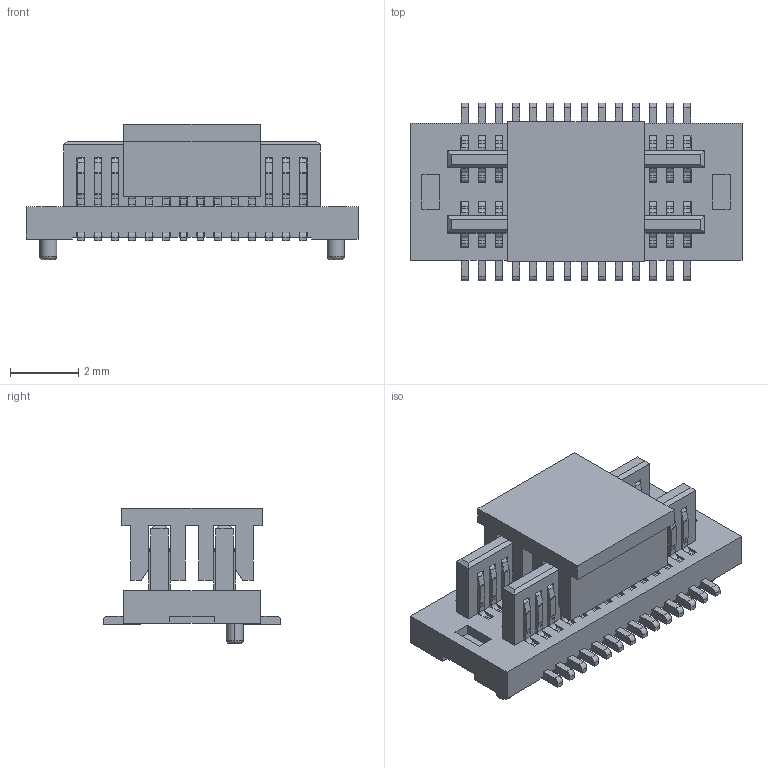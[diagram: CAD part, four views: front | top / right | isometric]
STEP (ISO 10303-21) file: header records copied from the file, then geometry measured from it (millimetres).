
FILE_DESCRIPTION(('CATIA V5 STEP Exchange'),'2;1');
FILE_NAME('F:\黄富鸿\板对板\PBB05\公座\H1.0\编带+盖\HC-PBB05-2-28-M-H1.0-G1-R-P-04（BTB0.5 双槽 公座 立贴 带柱 编带+盖）-HCTL.stp','2025-12-09T02:32:02+00:00',('none'),('none'),'CATIA Version 5 Release 20 GA (IN-10)','CATIA V5 STEP AP203','none');
FILE_SCHEMA(('CONFIG_CONTROL_DESIGN'));
Length unit declared in the file: millimetre
Products named in the file (1): Part2
Bounding box: 9.7 x 5.2 x 3.95 mm (x, y, z)
Volume: 69.5 mm3; surface area: 531.2 mm2
Topology: 30 solids, 30 shells, 1648 faces, 5014 edges, 3320 vertices
Faces by surface type: plane 1080, cylinder 564, torus 4
Entity records: 48319 total; most frequent: ORIENTED_EDGE 10028, CARTESIAN_POINT 8952, DIRECTION 5464, EDGE_CURVE 5014, VECTOR 3766, LINE 3766, VERTEX_POINT 3320, EDGE_LOOP 1654
